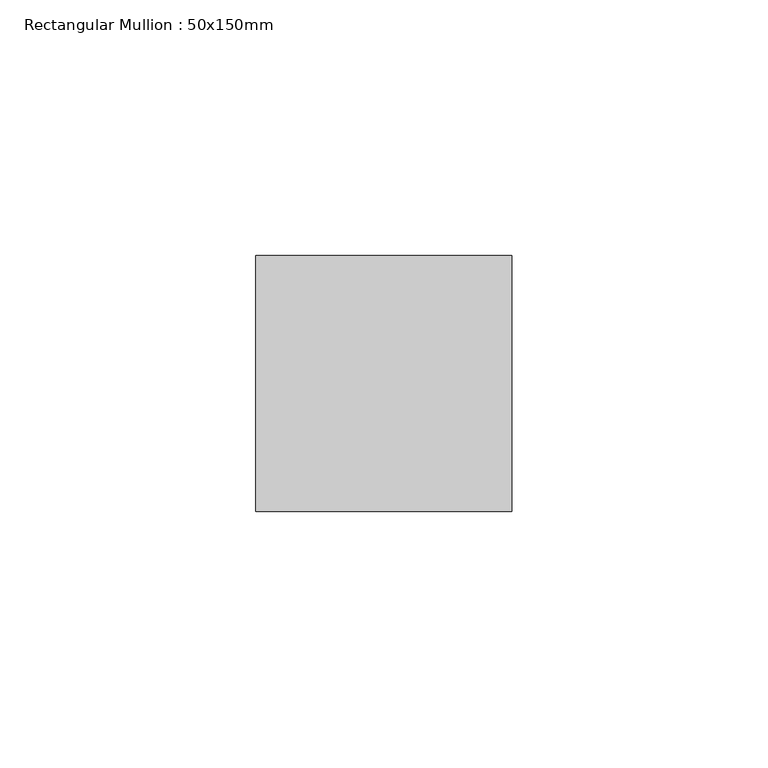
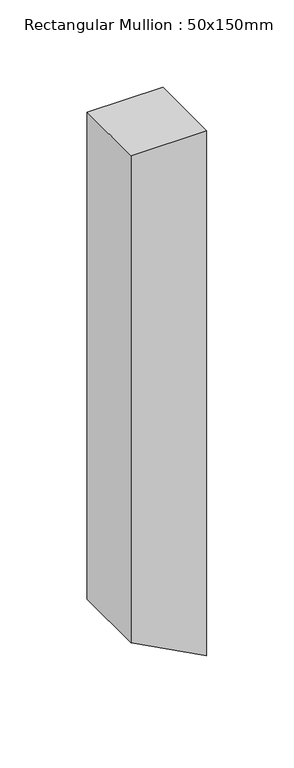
"""IFC4 building model written with IfcOpenShell, lengths in millimetres: member geometry, Rectangular Mullion : 50x150mm."""

import ifcopenshell
import ifcopenshell.guid

model = None  # the IFC model being written
_history = None  # IfcOwnerHistory: only IFC2X3 demands one
_inside = {}  # id of a spatial element -> (the spatial element, [elements in it])
_under = {}  # id of a project, library or spatial element -> (it, [spatial elements below it])
_declared = {}  # id of a project -> (the project, [libraries it declares])
_typed = {}  # id of a type object -> (the type object, [elements of that type])
_made_of = {}  # id of a material, layer set ... -> (it, [elements and type objects made of it])


def new_model(schema):
    """Start an empty IFC model of exactly this schema.

    Asked for "IFC4X3", IfcOpenShell would pick the latest addendum, in which some entities
    have other attributes; the version numbers below select the first issue.
    IFC2X3 requires an IfcOwnerHistory on every rooted entity: one is made here for all.
    """
    global model, _history
    if schema == "IFC4X3":
        model = ifcopenshell.file(schema_version=(4, 3, 0, 0))
    else:
        model = ifcopenshell.file(schema=schema)
    _inside.clear()
    _under.clear()
    _declared.clear()
    _typed.clear()
    _made_of.clear()
    _history = None
    if model.schema == "IFC2X3":
        org = make("IfcOrganization", Name="unknown")
        user = make(
            "IfcPersonAndOrganization",
            ThePerson=make("IfcPerson", FamilyName="unknown"),
            TheOrganization=org,
        )
        app = make(
            "IfcApplication",
            ApplicationDeveloper=org,
            Version="unknown",
            ApplicationFullName="unknown",
            ApplicationIdentifier="unknown",
        )
        _history = make(
            "IfcOwnerHistory",
            OwningUser=user,
            OwningApplication=app,
            ChangeAction="ADDED",
            CreationDate=0,
        )
    return model


def make(cls, **values):
    """One entity of the class cls with the attributes given. An attribute that is None is left unset."""
    return model.create_entity(
        cls, **{name: value for name, value in values.items() if value is not None}
    )


def rooted(cls, **values):
    """An entity with a GlobalId (a new one), such as an element, a storey or a relation."""
    return make(cls, GlobalId=ifcopenshell.guid.new(), OwnerHistory=_history, **values)


def si_unit(unit_type, name, prefix=None):
    """IfcSIUnit, for example si_unit("LENGTHUNIT", "METRE", prefix="MILLI")."""
    return make("IfcSIUnit", UnitType=unit_type, Prefix=prefix, Name=name)


def assignment(units):
    """IfcUnitAssignment: the units of a project."""
    return None if units is None else make("IfcUnitAssignment", Units=units)


def point(xyz):
    """IfcCartesianPoint."""
    return None if xyz is None else make("IfcCartesianPoint", Coordinates=xyz)


def direction(xyz):
    """IfcDirection."""
    return None if xyz is None else make("IfcDirection", DirectionRatios=xyz)


def frame(location, z_axis=None, x_axis=None):
    """IfcAxis2Placement3D, a coordinate frame: its origin and axes. An axis left out is left unset."""
    return make(
        "IfcAxis2Placement3D",
        Location=point(location),
        Axis=direction(z_axis),
        RefDirection=direction(x_axis),
    )


def origin():
    """The frame at (0, 0, 0) with its axes left unset."""
    return frame((0.0, 0.0, 0.0))


def place(relative_to, where):
    """IfcLocalPlacement: puts the frame where relative to a parent placement (None: the world)."""
    return make(
        "IfcLocalPlacement", PlacementRelTo=relative_to, RelativePlacement=where
    )


def context(
    kind, dimensions, precision=None, world=None, true_north=None, identifier=None
):
    """IfcGeometricRepresentationContext, for example the 3D "Model" context."""
    return make(
        "IfcGeometricRepresentationContext",
        ContextIdentifier=identifier,
        ContextType=kind,
        CoordinateSpaceDimension=dimensions,
        Precision=precision,
        WorldCoordinateSystem=world,
        TrueNorth=true_north,
    )


def project(units=None, contexts=None):
    """IfcProject with its units and contexts."""
    return rooted(
        "IfcProject",
        Name="project",
        RepresentationContexts=contexts,
        UnitsInContext=assignment(units),
    )


def spatial(cls, under=None, at=None, **own):
    """A site, building, storey or space (cls), placed at a placement, below another one or the project."""
    s = rooted(cls, ObjectPlacement=at, **own)
    if under is not None:
        _under.setdefault(under.id(), (under, []))[1].append(s)
    return s


def polyline(points):
    """IfcPolyline through the points."""
    return make("IfcPolyline", Points=[point(p) for p in points])


def outline(outer, holes=None, kind="AREA"):
    """IfcArbitraryClosedProfileDef: a profile drawn as a closed curve; with holes, ...WithVoids."""
    if holes is None:
        return make("IfcArbitraryClosedProfileDef", ProfileType=kind, OuterCurve=outer)
    return make(
        "IfcArbitraryProfileDefWithVoids",
        ProfileType=kind,
        OuterCurve=outer,
        InnerCurves=holes,
    )


def extrude(swept, where, along, depth):
    """IfcExtrudedAreaSolid: the profile swept, set in the frame where, extruded along a direction by depth."""
    return make(
        "IfcExtrudedAreaSolid",
        SweptArea=swept,
        Position=where,
        ExtrudedDirection=direction(along),
        Depth=depth,
    )


def shape(context_of_items, identifier, shape_type, items):
    """IfcShapeRepresentation: the items that make up one representation, for example the "Body"."""
    return make(
        "IfcShapeRepresentation",
        ContextOfItems=context_of_items,
        RepresentationIdentifier=identifier,
        RepresentationType=shape_type,
        Items=items,
    )


def source(mapping_origin, context_of_items, identifier, shape_type, items):
    """IfcRepresentationMap: a shape defined once, which mapped items show again and again."""
    return make(
        "IfcRepresentationMap",
        MappingOrigin=mapping_origin,
        MappedRepresentation=shape(context_of_items, identifier, shape_type, items),
    )


def transform(
    local_origin,
    x_axis=None,
    y_axis=None,
    z_axis=None,
    scale=None,
    scale2=None,
    scale3=None,
    uniform=True,
):
    """IfcCartesianTransformationOperator3D, or its non-uniform kind. x_axis, y_axis, z_axis: its Axis1, 2, 3."""
    if uniform:
        return make(
            "IfcCartesianTransformationOperator3D",
            Axis1=direction(x_axis),
            Axis2=direction(y_axis),
            LocalOrigin=point(local_origin),
            Scale=scale,
            Axis3=direction(z_axis),
        )
    return make(
        "IfcCartesianTransformationOperator3DnonUniform",
        Axis1=direction(x_axis),
        Axis2=direction(y_axis),
        LocalOrigin=point(local_origin),
        Scale=scale,
        Axis3=direction(z_axis),
        Scale2=scale2,
        Scale3=scale3,
    )


def mapped(mapping_source, mapping_target):
    """IfcMappedItem: shows the shape of a source again, moved by a transform."""
    return make(
        "IfcMappedItem", MappingSource=mapping_source, MappingTarget=mapping_target
    )


def made_of(thing, what):
    """Note that an element or type object is made of a material, layer set ...; save() writes the relation."""
    if what is not None:
        _made_of.setdefault(what.id(), (what, []))[1].append(thing)
    return thing


def element(
    cls,
    number,
    at=None,
    inside=None,
    cuts=None,
    type_object=None,
    material=None,
    context=None,
    identifier="Body",
    shape_type=None,
    held_by="IfcProductDefinitionShape",
    body=None,
    shapes=None,
    **own,
):
    """One element of the class cls, such as IfcWall. Its Tag is "e" and its number.

    at: its placement. inside: the storey or other place that contains it. cuts: it is an
    opening in that element (IfcRelVoidsElement). A single representation is given by context,
    identifier, shape_type and body (its items); several are given by shapes. held_by: the class
    of the entity that holds the representations. save() writes the other relations.
    """
    e = rooted(cls, Tag="e%d" % number, ObjectPlacement=at, **own)
    if body is not None:
        shapes = [shape(context, identifier, shape_type, body)]
    if shapes is not None:
        e.Representation = make(held_by, Representations=shapes)
    if inside is not None:
        _inside.setdefault(inside.id(), (inside, []))[1].append(e)
    if cuts is not None:
        rooted(
            "IfcRelVoidsElement", RelatingBuildingElement=cuts, RelatedOpeningElement=e
        )
    if type_object is not None:
        _typed.setdefault(type_object.id(), (type_object, []))[1].append(e)
    return made_of(e, material)


def aggregate(whole, parts):
    """IfcRelAggregates: a whole, such as a stair, and the parts it consists of."""
    return rooted("IfcRelAggregates", RelatingObject=whole, RelatedObjects=parts)


def save(model, path):
    """Write the relations noted so far, then the file.

    IfcRelAggregates (storeys below a building ...), IfcRelContainedInSpatialStructure (elements
    in a storey), IfcRelDefinesByType, IfcRelAssociatesMaterial and IfcRelDeclares: one each for
    every whole, place, type object, material and project.
    """
    for whole, parts in _under.values():
        aggregate(whole, parts)
    for where, things in _inside.values():
        rooted(
            "IfcRelContainedInSpatialStructure",
            RelatedElements=things,
            RelatingStructure=where,
        )
    for kind, things in _typed.values():
        rooted("IfcRelDefinesByType", RelatedObjects=things, RelatingType=kind)
    for what, things in _made_of.values():
        rooted("IfcRelAssociatesMaterial", RelatedObjects=things, RelatingMaterial=what)
    for by, libraries in _declared.values():
        rooted("IfcRelDeclares", RelatingContext=by, RelatedDefinitions=libraries)
    model.write(path)


def rectangular_mullion_50x150mm_1b0b66ed(model_context):
    return source(origin(), model_context, "Body", "SweptSolid", [
        extrude(outline(polyline([(0.0, 25.0), (0.0, -25.0), (-340.009436, -25.0), (-365.4379572, 23.2946855), (-366.3358536, 25.0), (0.0, 25.0)])), frame((0.0, -25.0, 0.0), z_axis=(0.0, 1.0, 0.0), x_axis=(0.0, 0.0, 1.0)), (0.0, 0.0, 1.0), 50.0),
    ])


if __name__ == "__main__":
    model = new_model("IFC4")
    model_context = context("Model", 3, world=origin())
    ifc_project = project(units=[si_unit("LENGTHUNIT", "METRE", prefix="MILLI")], contexts=[model_context])
    site = spatial("IfcSite", under=ifc_project)
    building = spatial("IfcBuilding", under=site)
    placement = place(None, origin())
    rectangular_mullion_50x150mm_shape = rectangular_mullion_50x150mm_1b0b66ed(model_context)
    element("IfcMember", 1, ObjectType="Rectangular Mullion : 50x150mm", at=placement, inside=building, context=model_context, shape_type="MappedRepresentation", body=[
        mapped(rectangular_mullion_50x150mm_shape, transform((0.0, 0.0, 0.0), x_axis=(1.0, 0.0, 0.0), y_axis=(0.0, 1.0, 0.0), z_axis=(0.0, 0.0, 1.0))),
    ])
    save(model, "model.ifc")
